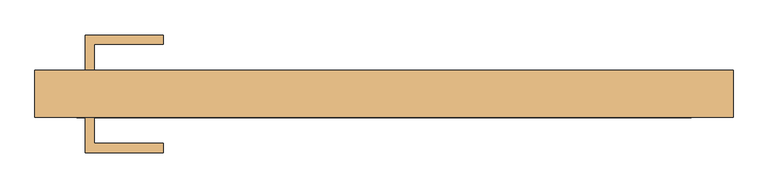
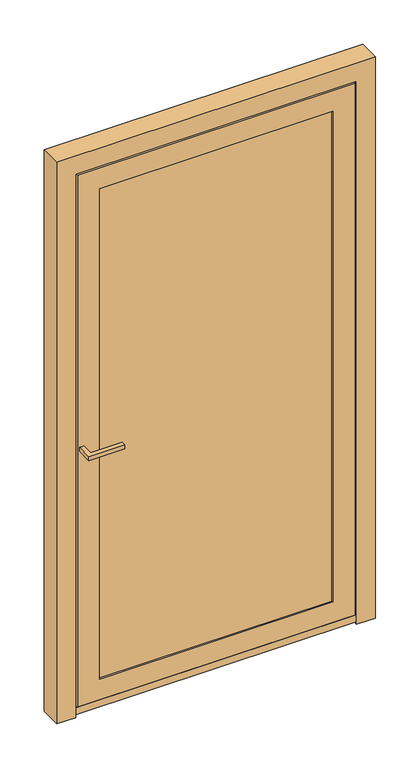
"""IFC4 building model written with IfcOpenShell, lengths in millimetres: door geometry, Reynaers_MasterLine 8_Door_Miter_Inward Opening_Single Vent : Reynaers_MasterLine 8_Door_Miter_Inward Opening_Single Vent."""

from ifc_helpers import new_model, si_unit, frame, origin, place, context, project, spatial, polyline, outline, extrude, faceted_brep, source, transform, mapped, element, save


def door_fae9e560(model_context):
    return source(origin(), model_context, "Body", "SolidModel", [
        extrude(outline(polyline([(-488.0, -131.2), (-473.0, -131.2), (-473.0, -173.7), (-360.5, -173.7), (-360.5, -188.7), (-488.0, -188.7), (-488.0, -131.2)])), frame((0.0, 0.0, 1000.0), z_axis=(0.0, 0.0, 1.0), x_axis=(1.0, 0.0, 0.0)), (0.0, 0.0, 1.0), 15.0),
        extrude(outline(polyline([(-488.0, -54.2), (-488.0, 3.3), (-360.5, 3.3), (-360.5, -11.7), (-473.0, -11.7), (-473.0, -54.2), (-488.0, -54.2)])), frame((0.0, 0.0, 1000.0), z_axis=(0.0, 0.0, 1.0), x_axis=(1.0, 0.0, 0.0)), (0.0, 0.0, 1.0), 15.0),
        extrude(outline(polyline([(1994.0, 444.0), (1994.0, -444.0), (88.5, -444.0), (88.5, 444.0), (1994.0, 444.0)]), holes=[polyline([(1969.0, -419.0), (1969.0, 419.0), (113.5, 419.0), (113.5, -419.0), (1969.0, -419.0)])]), frame((0.0, -92.2, 0.0), z_axis=(0.0, 1.0, 0.0), x_axis=(0.0, 0.0, 1.0)), (0.0, 0.0, 1.0), 38.0),
        faceted_brep([(-501.5, -127.4, 0.0), (-501.5, -131.2, 0.0), (-570.0, -131.2, 0.0), (-570.0, -54.2, 0.0), (-527.5, -54.2, 0.0), (-527.5, -63.0, 0.0), (-516.5, -63.0, 0.0), (-516.5, -127.4, 0.0), (-516.5, -127.4, 2066.5), (516.5, -127.4, 2066.5), (516.5, -127.4, 0.0), (501.5, -127.4, 0.0), (501.5, -127.4, 2051.5), (-501.5, -127.4, 2051.5), (-570.0, -131.2, 2120.0), (-570.0, -54.2, 2120.0), (-501.5, -131.2, 2051.5), (501.5, -131.2, 2051.5), (501.5, -131.2, 0.0), (570.0, -131.2, 0.0), (570.0, -131.2, 2120.0), (570.0, -54.2, 2120.0), (516.5, -63.0, 0.0), (527.5, -63.0, 0.0), (527.5, -54.2, 0.0), (570.0, -54.2, 0.0), (-516.5, -63.0, 2066.5), (527.5, -54.2, 2077.5), (-527.5, -54.2, 2077.5), (516.5, -63.0, 2066.5), (-527.5, -63.0, 2077.5), (527.5, -63.0, 2077.5)], [[[0, 1, 2, 3, 4, 5, 6, 7]], [[7, 8, 9, 10, 11, 12, 13, 0]], [[2, 14, 15, 3]], [[1, 16, 17, 18, 19, 20, 14, 2]], [[0, 13, 16, 1]], [[14, 20, 21, 15]], [[13, 12, 17, 16]], [[11, 10, 22, 23, 24, 25, 19, 18]], [[20, 19, 25, 21]], [[12, 11, 18, 17]], [[6, 26, 8, 7]], [[3, 15, 21, 25, 24, 27, 28, 4]], [[26, 29, 9, 8]], [[29, 22, 10, 9]], [[5, 30, 31, 23, 22, 29, 26, 6]], [[4, 28, 30, 5]], [[28, 27, 31, 30]], [[27, 24, 23, 31]]]),
        extrude(outline(polyline([(-89.2, 26.0), (-89.2, 11.0), (-90.9632698, 11.0), (-89.2, 1.0), (-97.2, 1.0), (-95.4367302, 11.0), (-97.2, 11.0), (-97.2, 26.0), (-89.2, 26.0)])), frame((-501.5, 0.0, 0.0), z_axis=(1.0, 0.0, 0.0), x_axis=(0.0, 1.0, 0.0)), (0.0, 0.0, 1.0), 1003.0),
        extrude(outline(polyline([(-501.5, -127.4), (501.5, -127.4), (501.5, -131.2), (-501.5, -131.2), (-501.5, -127.4)])), frame((0.0, 0.0, 11.0), z_axis=(0.0, 0.0, 1.0), x_axis=(1.0, 0.0, 0.0)), (0.0, 0.0, 1.0), 26.0),
        faceted_brep([(-444.0, -54.2, 1994.0), (444.0, -54.2, 1994.0), (444.0, -127.2, 1994.0), (-444.0, -127.2, 1994.0), (-521.5, -58.0, 2071.5), (521.5, -58.0, 2071.5), (521.5, -54.2, 2071.5), (-521.5, -54.2, 2071.5), (444.0, -54.2, 88.5), (444.0, -127.2, 88.5), (521.5, -58.0, 11.0), (521.5, -54.2, 11.0), (-444.0, -54.2, 88.5), (-444.0, -127.2, 88.5), (-521.5, -58.0, 11.0), (-521.5, -54.2, 11.0), (-506.5, -58.0, 2056.5), (506.5, -58.0, 2056.5), (506.5, -58.0, 26.0), (-506.5, -58.0, 26.0), (-506.5, -122.4, 2056.5), (506.5, -122.4, 2056.5), (-495.5, -131.2, 2045.5), (495.5, -131.2, 2045.5), (495.5, -122.4, 2045.5), (-495.5, -122.4, 2045.5), (-417.0, -127.2, 1967.0), (417.0, -127.2, 1967.0), (417.0, -131.2, 1967.0), (-417.0, -131.2, 1967.0), (506.5, -122.4, 26.0), (495.5, -131.2, 37.0), (495.5, -122.4, 37.0), (417.0, -127.2, 115.5), (417.0, -131.2, 115.5), (-506.5, -122.4, 26.0), (-495.5, -131.2, 37.0), (-495.5, -122.4, 37.0), (-417.0, -127.2, 115.5), (-417.0, -131.2, 115.5)], [[[0, 1, 2, 3]], [[4, 5, 6, 7]], [[1, 8, 9, 2]], [[5, 10, 11, 6]], [[8, 12, 13, 9]], [[10, 14, 15, 11]], [[12, 0, 3, 13]], [[7, 6, 11, 15], [1, 0, 12, 8]], [[14, 4, 7, 15]], [[5, 4, 14, 10], [16, 17, 18, 19]], [[20, 21, 17, 16]], [[22, 23, 24, 25]], [[26, 27, 28, 29]], [[21, 30, 18, 17]], [[23, 31, 32, 24]], [[27, 33, 34, 28]], [[30, 35, 19, 18]], [[31, 36, 37, 32]], [[33, 38, 39, 34]], [[35, 20, 16, 19]], [[21, 20, 35, 30], [25, 24, 32, 37]], [[36, 22, 25, 37]], [[23, 22, 36, 31], [29, 28, 34, 39]], [[38, 26, 29, 39]], [[3, 2, 9, 13], [27, 26, 38, 33]]]),
        extrude(outline(polyline([(436.0, -96.2), (436.0, -123.2), (-436.0, -123.2), (-436.0, -96.2), (436.0, -96.2)])), frame((0.0, 0.0, 96.5), z_axis=(0.0, 0.0, 1.0), x_axis=(1.0, 0.0, 0.0)), (0.0, 0.0, 1.0), 1889.5),
    ])


if __name__ == "__main__":
    model = new_model("IFC4")
    model_context = context("Model", 3, world=origin())
    ifc_project = project(units=[si_unit("LENGTHUNIT", "METRE", prefix="MILLI")], contexts=[model_context])
    site = spatial("IfcSite", under=ifc_project)
    building = spatial("IfcBuilding", under=site)
    placement = place(None, origin())
    door_shape = door_fae9e560(model_context)
    element("IfcDoor", 1, ObjectType="Reynaers_MasterLine 8_Door_Miter_Inward Opening_Single Vent : Reynaers_MasterLine 8_Door_Miter_Inward Opening_Single Vent", at=placement, inside=building, context=model_context, shape_type="MappedRepresentation", body=[
        mapped(door_shape, transform((0.0, 0.0, 0.0), x_axis=(1.0, 0.0, 0.0), y_axis=(0.0, 1.0, 0.0), z_axis=(0.0, 0.0, 1.0))),
    ])
    save(model, "model.ifc")
